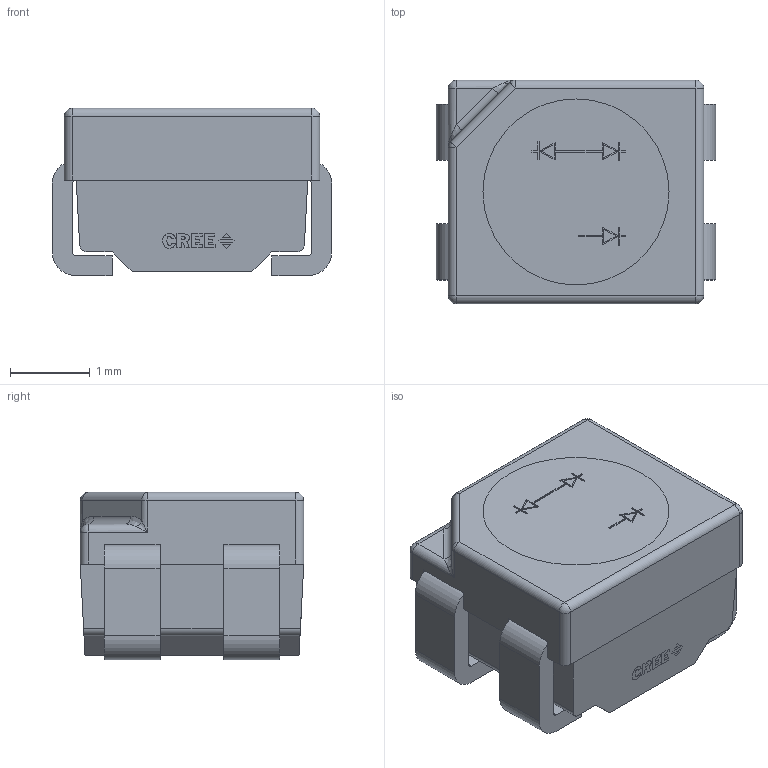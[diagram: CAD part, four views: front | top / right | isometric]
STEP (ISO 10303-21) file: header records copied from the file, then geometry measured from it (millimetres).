
FILE_DESCRIPTION(/* description */ (''),/* implementation_level */ '2;1');
FILE_NAME(/* name */ 'C:\Users\k\Desktop\Cree CLVBA-FKA-CAEDH8BBB7A363\Imported Components\CLVBA-FKA-CAEDH8BBB7A363--3DModel-STEP-56544\2.stp',/* time_stamp */ '2020-06-05T11:00:45+02:00',/* author */ ('k'),/* organization */ (''),/* preprocessor_version */ 'ST-DEVELOPER v15.6',/* originating_system */ 'Autodesk Inventor 2015',/* authorisation */ '');
FILE_SCHEMA (('AUTOMOTIVE_DESIGN { 1 0 10303 214 3 1 1 }'));
Length unit declared in the file: inch
Products named in the file (9): 1; 2; 3; b; g; r; CREE Logo Yury
Bounding box: 3.5 x 2.8 x 2.1 mm (x, y, z)
Volume: 17.3 mm3; surface area: 70.8 mm2
Topology: 19 solids, 19 shells, 265 faces, 644 edges, 416 vertices
Faces by surface type: plane 209, cylinder 34, bspline 16, sphere 6
Full cylindrical faces by diameter (mm): 2.33 x2
Entity records: 7994 total; most frequent: CARTESIAN_POINT 1570, ORIENTED_EDGE 1280, DIRECTION 1222, EDGE_CURVE 640, LINE 542, VECTOR 542, VERTEX_POINT 416, AXIS2_PLACEMENT_3D 340
